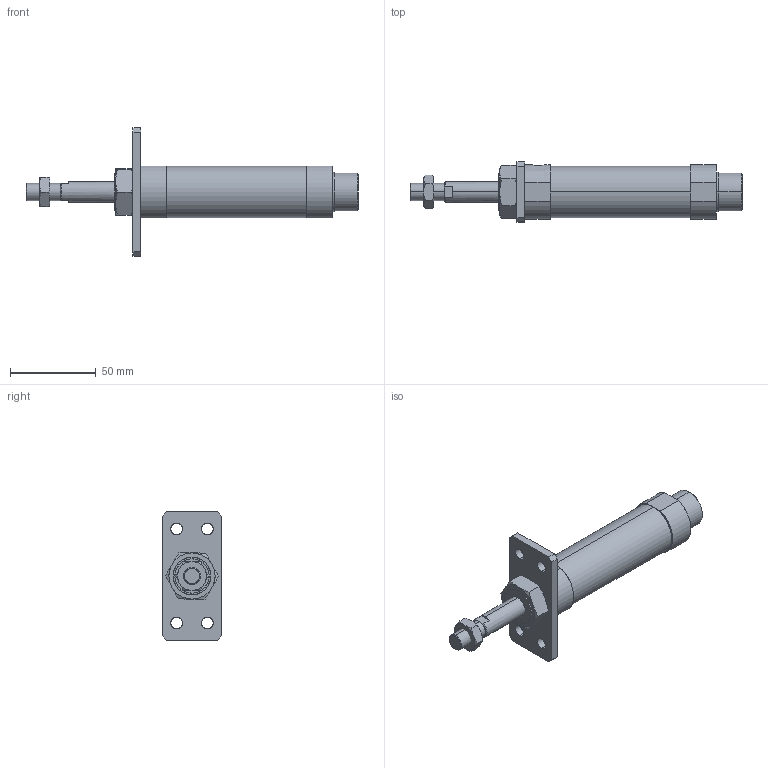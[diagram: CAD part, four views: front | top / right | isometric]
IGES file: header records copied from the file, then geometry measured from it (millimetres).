
Start section: SolidWorks IGES file using analytic representation for surfaces
Global section: file name: C:\Users\Toshiba\Desktop\J#0-25-25-A.IGS; native system: SolidWorks 2014; preprocessor: SolidWorks 2014; author: Toshiba; date: 160308.143303; units: millimetre
Bounding box: 194 x 35 x 75 mm (x, y, z)
Surface area: 25762.6 mm2 (no closed solid volume)
Topology: 0 solids, 0 shells, 113 faces, 2070 edges, 2068 vertices
Faces by surface type: bspline 71, revolution 42
